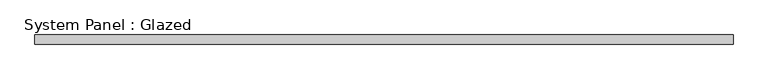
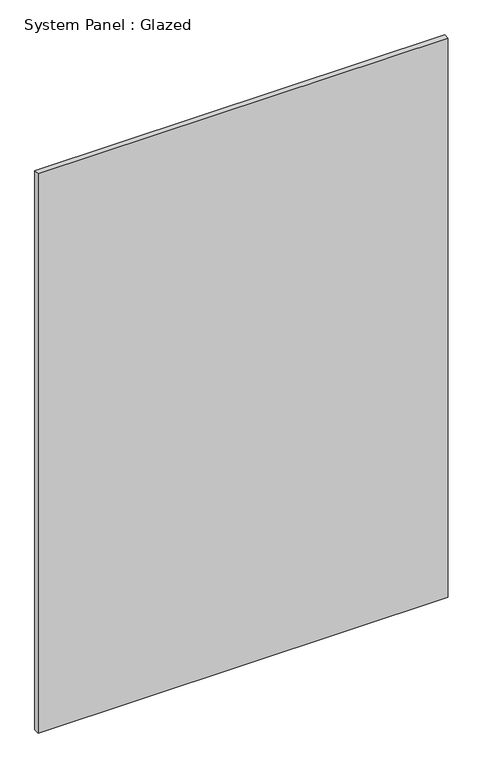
"""IFC4 building model written with IfcOpenShell, lengths in millimetres: plate geometry, System Panel : Glazed."""

from ifc_helpers import new_model, si_unit, origin, origin_with_axes, place, context, project, spatial, polyline, outline, extrude, source, transform, mapped, element, save


def system_panel_glazed_21b5dabc(model_context):
    return source(origin(), model_context, "Body", "SweptSolid", [
        extrude(outline(polyline([(927.375, 19.05), (-927.375, 19.05), (-927.375, 44.45), (927.375, 44.45), (927.375, 19.05)])), origin_with_axes(), (0.0, 0.0, 1.0), 2673.0),
    ])


if __name__ == "__main__":
    model = new_model("IFC4")
    model_context = context("Model", 3, world=origin())
    ifc_project = project(units=[si_unit("LENGTHUNIT", "METRE", prefix="MILLI")], contexts=[model_context])
    site = spatial("IfcSite", under=ifc_project)
    building = spatial("IfcBuilding", under=site)
    placement = place(None, origin())
    system_panel_glazed_shape = system_panel_glazed_21b5dabc(model_context)
    element("IfcPlate", 1, ObjectType="System Panel : Glazed", at=placement, inside=building, context=model_context, shape_type="MappedRepresentation", body=[
        mapped(system_panel_glazed_shape, transform((0.0, 0.0, 0.0), x_axis=(1.0, 0.0, 0.0), y_axis=(0.0, 1.0, 0.0), z_axis=(0.0, 0.0, 1.0))),
    ])
    save(model, "model.ifc")
